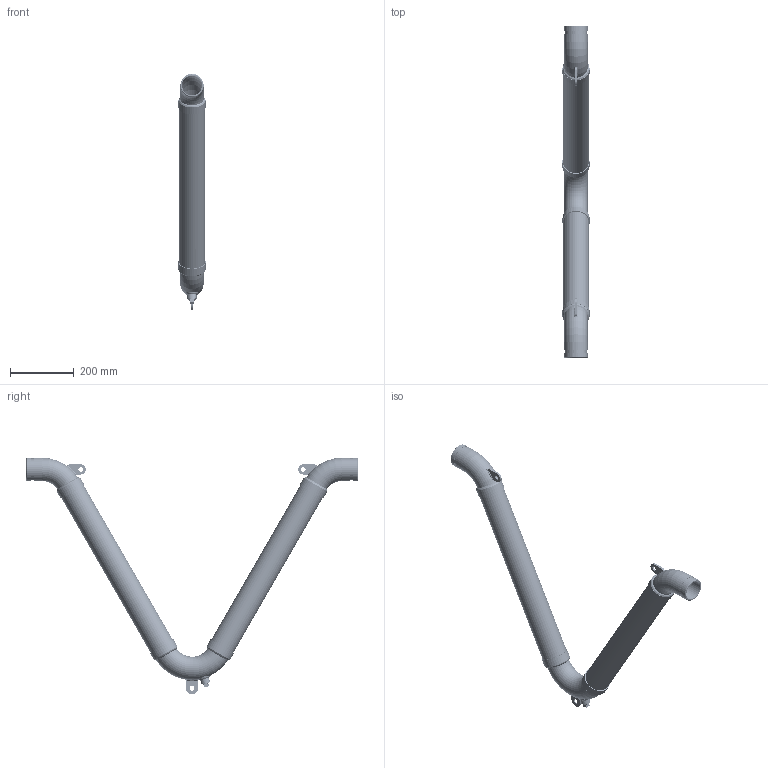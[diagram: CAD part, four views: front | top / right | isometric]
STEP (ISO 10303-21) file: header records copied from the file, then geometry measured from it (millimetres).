
FILE_DESCRIPTION((''),'2;1');
FILE_NAME('\\Mleuckt7400\cad-proe_solids2\WEBSITE FILES 05.22.13\STEP\VGWN\VGWN-2_5.stp','2013-07-23T09:41:22',('rramoutar'),(''),'Autodesk Inventor 2012','Autodesk Inventor 2012','');
FILE_SCHEMA(('AUTOMOTIVE_DESIGN { 1 0 10303 214 1 1 1 1 }'));
Length unit declared in the file: inch
Products named in the file (12): A-30590-3 VGN-2.5 inch.iam (LevelofDetail1); A-30590-3 VGN-2.5 inch.iam (LevelofDetail1)_Welds; A-30590-3 ELBOW 120 DEG FOR 2.5 INCH VGN; A-30713 A36 STEEL COUPLING 0.5 inch; A-30713 A36 STEEL PLUG 0.5 inch; A-28692-2 SUPORT CLIP VMN,VGN,VFL 2INCH, 2.5INCH; A-30590-3 VGN 2.5 INCH NIPPLE; A-30590-3 ELBOW 60 DEG FOR 2.5 INCH VGN; A-29781-7 2.5 inch braid collar; A-29781-7 VGN 2.5 STAINLESS BRAID; A-29795-1 CLIP VMN,VGN,VFL 2 TO 4 INCH; A-29781-7 VGN 2.5 inch STAINLESS STEEL HOSE
Assembly tree (19 placements, depth 2):
  A-30590-3 VGN-2.5 inch.iam (LevelofDetail1)
    A-30590-3 VGN-2.5 inch.iam (LevelofDetail1)_Welds
    A-30590-3 ELBOW 120 DEG FOR 2.5 INCH VGN
    A-30713 A36 STEEL COUPLING 0.5 inch
    A-30713 A36 STEEL PLUG 0.5 inch
    A-28692-2 SUPORT CLIP VMN,VGN,VFL 2INCH, 2.5INCH
    A-30590-3 VGN 2.5 INCH NIPPLE  x2
    A-30590-3 ELBOW 60 DEG FOR 2.5 INCH VGN  x2
    A-29781-7 2.5 inch braid collar  x4
    A-29781-7 VGN 2.5 STAINLESS BRAID  x2
    A-29795-1 CLIP VMN,VGN,VFL 2 TO 4 INCH  x2
    A-29781-7 VGN 2.5 inch STAINLESS STEEL HOSE  x2
Bounding box: 85.64 x 1041.4 x 741.36 mm (x, y, z)
Volume: 1078843.9 mm3; surface area: 2595886.6 mm2
Topology: 25 solids, 25 shells, 1682 faces, 2608 edges, 1741 vertices
Faces by surface type: plane 842, torus 785, cylinder 36, bspline 15, cone 4
Full cylindrical faces by diameter (mm): 14.288 x2, 15.875 x1, 18.256 x1, 21.336 x2, 28.575 x3, 62.713 x2, 69.088 x2, 73.025 x4, 79.756 x2, 80.569 x6, 85.331 x4
Entity records: 24527 total; most frequent: CARTESIAN_POINT 8976, DIRECTION 3495, ORIENTED_EDGE 1916, AXIS2_PLACEMENT_3D 1727, EDGE_LOOP 1699, EDGE_CURVE 958, VERTEX_POINT 913, FACE_OUTER_BOUND 873
